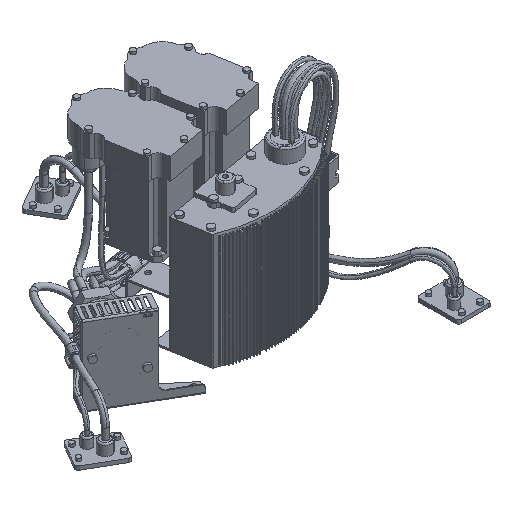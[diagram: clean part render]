
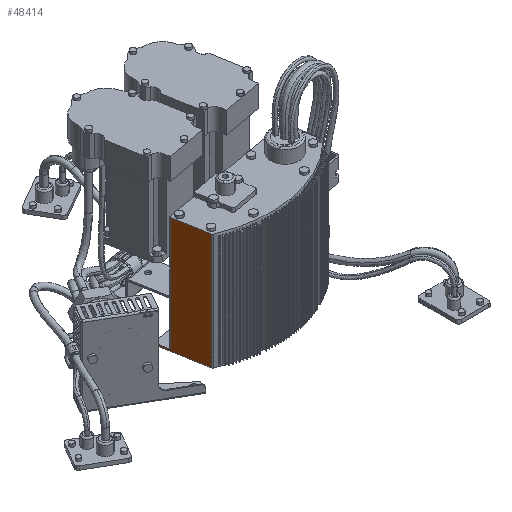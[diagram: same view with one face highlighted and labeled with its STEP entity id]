
A CAD part, isometric view. The second image highlights one B-rep face of the part: STEP entity #48414.
In plain terms, the highlighted planar face has unit normal (-0.985, -0.174, 0).
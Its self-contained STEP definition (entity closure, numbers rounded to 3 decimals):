
#791 = DIRECTION ( 'NONE',  ( 0.174, -0.985, 0. ) ) ;
#7700 = DIRECTION ( 'NONE',  ( 0.174, -0.985, 0. ) ) ;
#11097 = VERTEX_POINT ( 'NONE', #92395 ) ;
#12549 = DIRECTION ( 'NONE',  ( 0.174, -0.985, 0. ) ) ;
#13585 = DIRECTION ( 'NONE',  ( 0., 0., 1. ) ) ;
#18715 = CARTESIAN_POINT ( 'NONE',  ( -110.767, -57.104, 35. ) ) ;
#19812 = EDGE_CURVE ( 'NONE', #97717, #25739, #92189, .T. ) ;
#19982 = ORIENTED_EDGE ( 'NONE', *, *, #109540, .F. ) ;
#24071 = PLANE ( 'NONE',  #86547 ) ;
#24486 = CARTESIAN_POINT ( 'NONE',  ( -110.767, -57.104, 238. ) ) ;
#25739 = VERTEX_POINT ( 'NONE', #97867 ) ;
#28468 = CARTESIAN_POINT ( 'NONE',  ( -99.935, -118.534, 238. ) ) ;
#29259 = VECTOR ( 'NONE', #13585, 1000. ) ;
#30711 = ORIENTED_EDGE ( 'NONE', *, *, #19812, .F. ) ;
#31000 = FACE_OUTER_BOUND ( 'NONE', #112882, .T. ) ;
#33693 = VECTOR ( 'NONE', #65507, 1000. ) ;
#36886 = VERTEX_POINT ( 'NONE', #64940 ) ;
#42381 = VECTOR ( 'NONE', #78057, 1000. ) ;
#43033 = EDGE_CURVE ( 'NONE', #98184, #11097, #60940, .T. ) ;
#45648 = ORIENTED_EDGE ( 'NONE', *, *, #83711, .T. ) ;
#48414 = ADVANCED_FACE ( 'NONE', ( #31000 ), #24071, .T. ) ;
#49139 = LINE ( 'NONE', #113770, #42381 ) ;
#55963 = VECTOR ( 'NONE', #791, 1000. ) ;
#56390 = CARTESIAN_POINT ( 'NONE',  ( -110.767, -57.104, 233. ) ) ;
#60029 = ORIENTED_EDGE ( 'NONE', *, *, #97678, .T. ) ;
#60940 = LINE ( 'NONE', #18715, #55963 ) ;
#63528 = CARTESIAN_POINT ( 'NONE',  ( -110.767, -57.104, 38. ) ) ;
#64940 = CARTESIAN_POINT ( 'NONE',  ( -114.761, -34.453, 38. ) ) ;
#65507 = DIRECTION ( 'NONE',  ( 0., 0., -1. ) ) ;
#68190 = EDGE_CURVE ( 'NONE', #36886, #97717, #106683, .T. ) ;
#70088 = ORIENTED_EDGE ( 'NONE', *, *, #43033, .T. ) ;
#73062 = ORIENTED_EDGE ( 'NONE', *, *, #68190, .F. ) ;
#75299 = CARTESIAN_POINT ( 'NONE',  ( -114.761, -34.453, 35. ) ) ;
#75877 = LINE ( 'NONE', #75299, #33693 ) ;
#78057 = DIRECTION ( 'NONE',  ( 0., 0., 1. ) ) ;
#80794 = CARTESIAN_POINT ( 'NONE',  ( -110.767, -57.104, 38. ) ) ;
#81608 = CARTESIAN_POINT ( 'NONE',  ( -114.761, -34.453, 35. ) ) ;
#82315 = VERTEX_POINT ( 'NONE', #28468 ) ;
#83711 = EDGE_CURVE ( 'NONE', #36886, #98184, #75877, .T. ) ;
#84815 = DIRECTION ( 'NONE',  ( -0.985, -0.174, 0. ) ) ;
#86547 = AXIS2_PLACEMENT_3D ( 'NONE', #91728, #84815, #12549 ) ;
#87420 = VECTOR ( 'NONE', #98603, 1000. ) ;
#91728 = CARTESIAN_POINT ( 'NONE',  ( -110.767, -57.104, 35. ) ) ;
#92189 = LINE ( 'NONE', #56390, #29259 ) ;
#92395 = CARTESIAN_POINT ( 'NONE',  ( -99.935, -118.534, 35. ) ) ;
#95529 = LINE ( 'NONE', #24486, #99248 ) ;
#97678 = EDGE_CURVE ( 'NONE', #11097, #82315, #49139, .T. ) ;
#97717 = VERTEX_POINT ( 'NONE', #63528 ) ;
#97867 = CARTESIAN_POINT ( 'NONE',  ( -110.767, -57.104, 238. ) ) ;
#98184 = VERTEX_POINT ( 'NONE', #81608 ) ;
#98603 = DIRECTION ( 'NONE',  ( 0.174, -0.985, 0. ) ) ;
#99248 = VECTOR ( 'NONE', #7700, 1000. ) ;
#106683 = LINE ( 'NONE', #80794, #87420 ) ;
#109540 = EDGE_CURVE ( 'NONE', #25739, #82315, #95529, .T. ) ;
#112882 = EDGE_LOOP ( 'NONE', ( #70088, #60029, #19982, #30711, #73062, #45648 ) ) ;
#113770 = CARTESIAN_POINT ( 'NONE',  ( -99.935, -118.534, 35. ) ) ;
